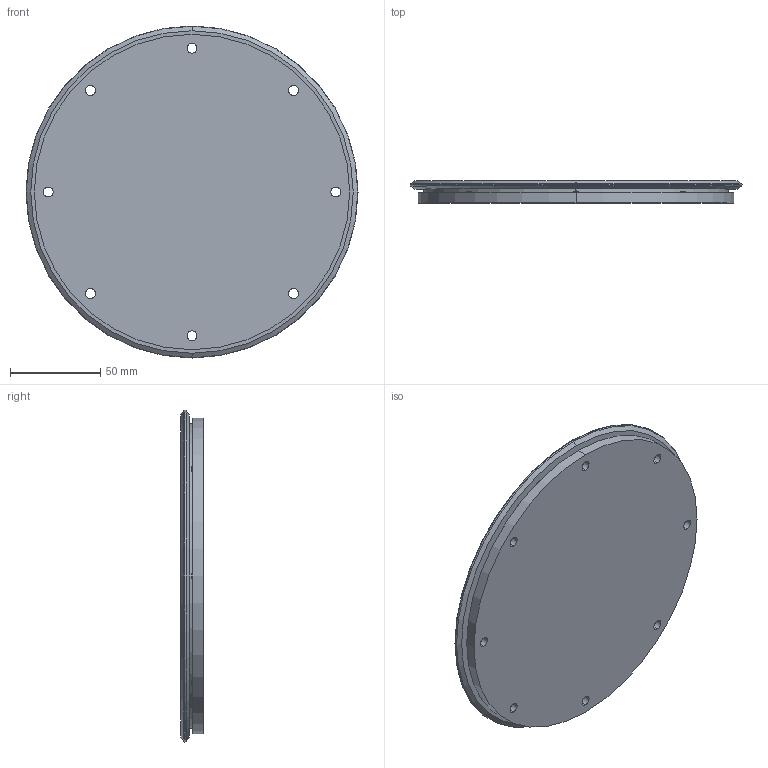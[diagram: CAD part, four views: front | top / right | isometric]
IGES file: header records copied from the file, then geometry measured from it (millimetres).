
Start section: 3D InterOp IGES (v. 2020 1.0.1), Spatial Corp. Copyright (c) 1999-2017.
Global section: file name: rd25_159_.igs; native system: Spatial Corp.; preprocessor: 3D InterOp ACIS/IGES; author: TraceParts; organization: TraceParts S.A.; date: 20220622.101056; units: millimetre
Bounding box: 183.61 x 12.25 x 183.61 mm (x, y, z)
Surface area: 63076.4 mm2 (no closed solid volume)
Topology: 0 solids, 0 shells, 56 faces, 252 edges, 252 vertices
Faces by surface type: revolution 44, extrusion 12
